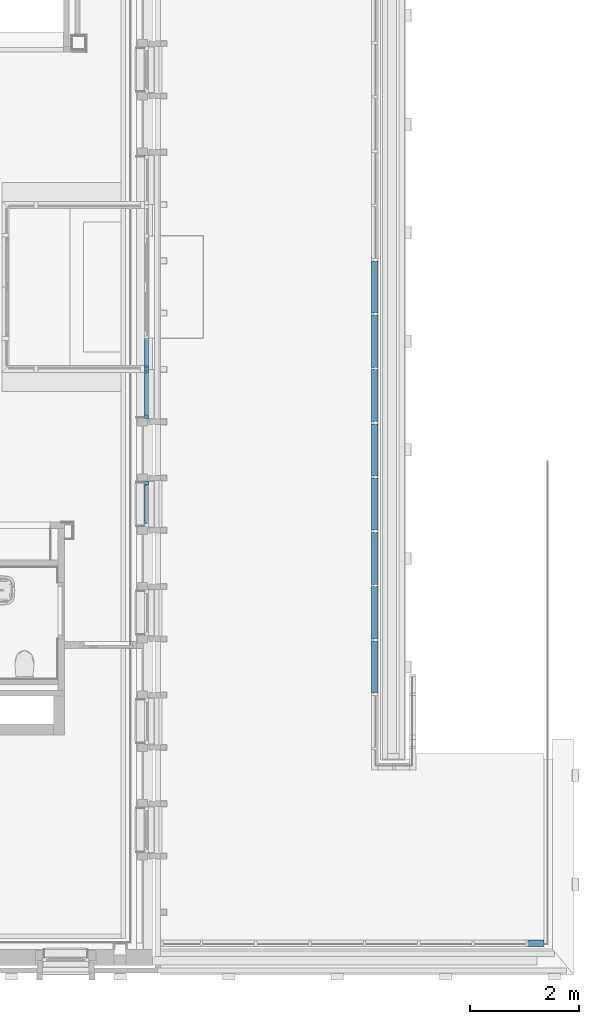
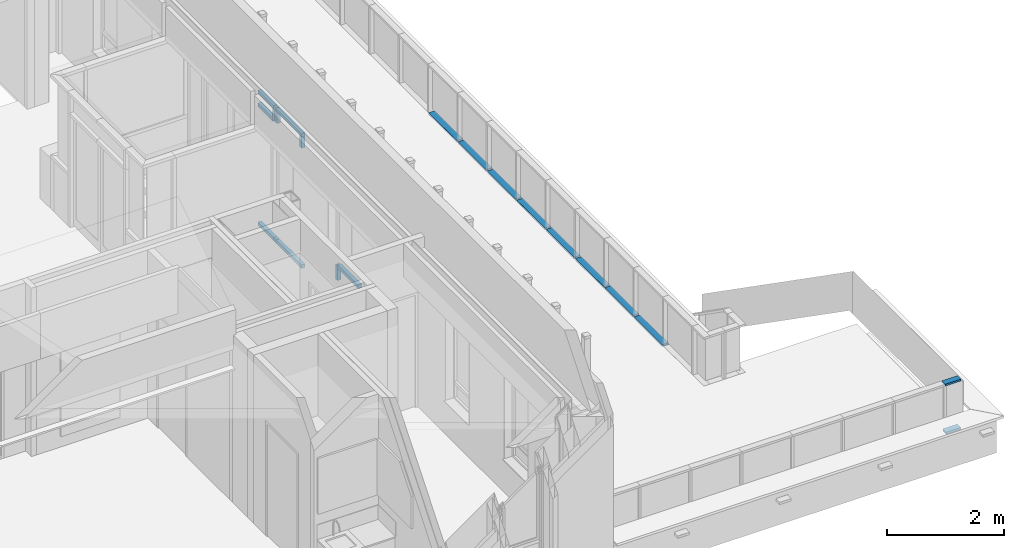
# One storey, part 12 of 118: 22 members, 4 elements without a shape of their own.
"""IFC2X3 building model written with IfcOpenShell, lengths in millimetres."""

from ifc_helpers import new_model, entity, si_unit, converted_unit, derived_unit, direction, frame, origin, origin_2d_with_axis, place, context, subcontext, project, spatial, rectangle, extrude, source, transform, mapped, material, material_list, type_object, type_shapes, element, aggregate, save


model = new_model("IFC2X3")

# Units and contexts
model_context = context("Model", 3, precision=0.01, world=origin(), true_north=direction((6.123031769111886e-17, 1.0)))
plan_context = context("Plan", 3, precision=0.01, world=origin(), true_north=direction((6.123031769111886e-17, 1.0)))
body_context = subcontext(model_context, "Body", "Model", "MODEL_VIEW")
ifc_project = project(units=[si_unit("LENGTHUNIT", "METRE", prefix="MILLI"), si_unit("AREAUNIT", "SQUARE_METRE"), si_unit("VOLUMEUNIT", "CUBIC_METRE"), converted_unit("PLANEANGLEUNIT", "DEGREE", entity("IfcRatioMeasure", 0.017453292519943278), si_unit("PLANEANGLEUNIT", "RADIAN"), dimensions=[0, 0, 0, 0, 0, 0, 0]), si_unit("MASSUNIT", "GRAM", prefix="KILO"), derived_unit("MASSDENSITYUNIT", [(si_unit("MASSUNIT", "GRAM", prefix="KILO"), 1), (si_unit("LENGTHUNIT", "METRE"), -3)]), derived_unit("IONCONCENTRATIONUNIT", [(si_unit("MASSUNIT", "GRAM", prefix="KILO"), 1), (si_unit("LENGTHUNIT", "METRE"), -3)]), derived_unit("MOMENTOFINERTIAUNIT", [(si_unit("LENGTHUNIT", "METRE"), 4)]), si_unit("TIMEUNIT", "SECOND"), si_unit("FREQUENCYUNIT", "HERTZ"), si_unit("THERMODYNAMICTEMPERATUREUNIT", "DEGREE_CELSIUS"), derived_unit("THERMALTRANSMITTANCEUNIT", [(si_unit("MASSUNIT", "GRAM", prefix="KILO"), 1), (si_unit("THERMODYNAMICTEMPERATUREUNIT", "KELVIN"), -1), (si_unit("TIMEUNIT", "SECOND"), -3)]), derived_unit("THERMALCONDUCTANCEUNIT", [(si_unit("MASSUNIT", "GRAM", prefix="KILO"), 1), (si_unit("THERMODYNAMICTEMPERATUREUNIT", "KELVIN"), -1), (si_unit("TIMEUNIT", "SECOND"), -3), (si_unit("LENGTHUNIT", "METRE"), 1)]), derived_unit("VOLUMETRICFLOWRATEUNIT", [(si_unit("LENGTHUNIT", "METRE"), 3), (si_unit("TIMEUNIT", "SECOND"), -1)]), derived_unit("MASSFLOWRATEUNIT", [(si_unit("MASSUNIT", "GRAM", prefix="KILO"), 1), (si_unit("TIMEUNIT", "SECOND"), -1)]), derived_unit("ROTATIONALFREQUENCYUNIT", [(si_unit("TIMEUNIT", "SECOND"), -1)]), si_unit("ELECTRICCURRENTUNIT", "AMPERE"), si_unit("ELECTRICVOLTAGEUNIT", "VOLT"), si_unit("POWERUNIT", "WATT"), si_unit("FORCEUNIT", "NEWTON", prefix="KILO"), si_unit("ILLUMINANCEUNIT", "LUX"), si_unit("LUMINOUSFLUXUNIT", "LUMEN"), si_unit("LUMINOUSINTENSITYUNIT", "CANDELA"), derived_unit("USERDEFINED", [(si_unit("MASSUNIT", "GRAM", prefix="KILO"), -1), (si_unit("LENGTHUNIT", "METRE"), -2), (si_unit("TIMEUNIT", "SECOND"), 3), (si_unit("LUMINOUSFLUXUNIT", "LUMEN"), 1)]), derived_unit("USERDEFINED", [(si_unit("MASSUNIT", "GRAM", prefix="KILO"), 1), (si_unit("TIMEUNIT", "SECOND"), -3), (si_unit("LENGTHUNIT", "METRE"), 3), (si_unit("ELECTRICCURRENTUNIT", "AMPERE"), -2)]), derived_unit("SOUNDPOWERUNIT", [(si_unit("MASSUNIT", "GRAM", prefix="KILO"), 1), (si_unit("TIMEUNIT", "SECOND"), -3), (si_unit("LENGTHUNIT", "METRE"), 2)]), derived_unit("SOUNDPRESSUREUNIT", [(si_unit("MASSUNIT", "GRAM", prefix="KILO"), 1), (si_unit("LENGTHUNIT", "METRE"), -1), (si_unit("TIMEUNIT", "SECOND"), -2)]), derived_unit("LINEARVELOCITYUNIT", [(si_unit("LENGTHUNIT", "METRE"), 1), (si_unit("TIMEUNIT", "SECOND"), -1)]), si_unit("PRESSUREUNIT", "PASCAL"), derived_unit("USERDEFINED", [(si_unit("MASSUNIT", "GRAM", prefix="KILO"), 1), (si_unit("LENGTHUNIT", "METRE"), -2), (si_unit("TIMEUNIT", "SECOND"), -2)]), derived_unit("LINEARFORCEUNIT", [(si_unit("MASSUNIT", "GRAM", prefix="KILO"), 1), (si_unit("TIMEUNIT", "SECOND"), -2)]), derived_unit("PLANARFORCEUNIT", [(si_unit("MASSUNIT", "GRAM", prefix="KILO"), 1), (si_unit("LENGTHUNIT", "METRE"), -1), (si_unit("TIMEUNIT", "SECOND"), -2)]), derived_unit("SPECIFICHEATCAPACITYUNIT", [(si_unit("THERMODYNAMICTEMPERATUREUNIT", "KELVIN"), -1), (si_unit("LENGTHUNIT", "METRE"), 2), (si_unit("TIMEUNIT", "SECOND"), -2)]), derived_unit("HEATINGVALUEUNIT", [(si_unit("LENGTHUNIT", "METRE"), 2), (si_unit("TIMEUNIT", "SECOND"), -2)]), derived_unit("VAPORPERMEABILITYUNIT", [(si_unit("LENGTHUNIT", "METRE"), -1), (si_unit("TIMEUNIT", "SECOND"), 1)]), derived_unit("DYNAMICVISCOSITYUNIT", [(si_unit("MASSUNIT", "GRAM", prefix="KILO"), 1), (si_unit("TIMEUNIT", "SECOND"), -1), (si_unit("LENGTHUNIT", "METRE"), -1)]), derived_unit("THERMALEXPANSIONCOEFFICIENTUNIT", [(si_unit("THERMODYNAMICTEMPERATUREUNIT", "KELVIN"), -1)]), derived_unit("MODULUSOFELASTICITYUNIT", [(si_unit("MASSUNIT", "GRAM", prefix="KILO"), 1), (si_unit("LENGTHUNIT", "METRE"), -1), (si_unit("TIMEUNIT", "SECOND"), -2)]), derived_unit("ISOTHERMALMOISTURECAPACITYUNIT", [(si_unit("LENGTHUNIT", "METRE"), 3), (si_unit("MASSUNIT", "GRAM", prefix="KILO"), -1)]), derived_unit("MOISTUREDIFFUSIVITYUNIT", [(si_unit("TIMEUNIT", "SECOND"), -1), (si_unit("LENGTHUNIT", "METRE"), 2)])], contexts=[model_context, plan_context])

# Site, building, storey
site_placement = place(None, origin())
site = spatial("IfcSite", under=ifc_project, at=site_placement, Name="Locatie", CompositionType="ELEMENT")
building_placement = place(site_placement, origin())
building = spatial("IfcBuilding", under=site, at=building_placement, Name="Bouwwerk", CompositionType="ELEMENT")
storey_placement = place(building_placement, frame((0.0, 0.0, 7800.0)))
storey = spatial("IfcBuildingStorey", under=building, at=storey_placement, Name="02 tweede verdieping", CompositionType="ELEMENT", Elevation=7800.000000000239)

# Curtain wall, members
curtain_wall_type_1 = type_object("IfcCurtainWallType", Name="Curtain Wall:NLRS_21_CW_Ontwerpkozijn_aluminium_RT72", PredefinedType="NOTDEFINED")
curtain_wall_1_placement = place(storey_placement, frame((0.0, 0.0, -7800.0)))
curtain_wall_1 = element("IfcCurtainWall", 1, at=curtain_wall_1_placement, inside=storey, type_object=curtain_wall_type_1, Name="Curtain Wall:NLRS_21_CW_Ontwerpkozijn_aluminium_RT72", ObjectType="Curtain Wall:NLRS_21_CW_Ontwerpkozijn_aluminium_RT72")
ifc_material_1 = material(Name="a_kozijn")
ifc_material_2 = material(Name="<Unnamed>")
ifc_material_list = material_list([ifc_material_2, ifc_material_1])
member_type_1 = type_object("IfcMemberType", Name="Rectangular Mullion:RT72_Hr_raam", PredefinedType="MULLION", material=ifc_material_list)
shared_shape_1 = source(origin(), body_context, "Body", "SweptSolid", [
    extrude(rectangle(XDim=71.99999999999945, YDim=68.00000000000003, at=origin_2d_with_axis()), frame((-34.0, -36.0, -301.0), z_axis=(0.0, 0.0, 1.0), x_axis=(0.0, -1.0, 0.0)), (0.0, 0.0, 1.0), 301.00000000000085),
])
type_shapes(member_type_1, [shared_shape_1])
member_1_placement = place(curtain_wall_1_placement, frame((34753.0, 18625.0, 8842.0), z_axis=(0.0, 0.0, 1.0), x_axis=(0.0, 1.0, 0.0)))
member_1 = element("IfcMember", 2, at=member_1_placement, type_object=member_type_1, material=ifc_material_1, Name="Rectangular Mullion:RT72_Hr_raam", ObjectType="Rectangular Mullion:RT72_Hr_raam", context=body_context, shape_type="MappedRepresentation", body=[
    mapped(shared_shape_1, transform((0.0, 0.0, 0.0), scale=1.0)),
])
member_type_2 = type_object("IfcMemberType", Name="Rectangular Mullion:RT72_Vb_raam", PredefinedType="MULLION", material=ifc_material_list)
shared_shape_2 = source(origin(), body_context, "Body", "SweptSolid", [
    extrude(rectangle(XDim=71.99999999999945, YDim=68.00000000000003, at=origin_2d_with_axis()), frame((0.0, -36.0, -714.0), z_axis=(0.0, 0.0, 1.0), x_axis=(0.0, -1.0, 0.0)), (0.0, 0.0, 1.0), 714.0000000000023),
])
type_shapes(member_type_2, [shared_shape_2])
member_2_placement = place(curtain_wall_1_placement, frame((34753.0, 17843.0, 8842.0), z_axis=(0.0, -1.0, 0.0), x_axis=(0.0, 0.0, 1.0)))
member_2 = element("IfcMember", 3, at=member_2_placement, type_object=member_type_2, material=ifc_material_1, Name="Rectangular Mullion:RT72_Vb_raam", ObjectType="Rectangular Mullion:RT72_Vb_raam", context=body_context, shape_type="MappedRepresentation", body=[
    mapped(shared_shape_2, transform((0.0, 0.0, 0.0), scale=1.0)),
])
aggregate(curtain_wall_1, [member_1, member_2])

curtain_wall_2_placement = place(storey_placement, frame((0.0, 0.0, -7800.0)))
curtain_wall_2 = element("IfcCurtainWall", 4, at=curtain_wall_2_placement, inside=storey, type_object=curtain_wall_type_1, Name="Curtain Wall:NLRS_21_CW_Ontwerpkozijn_aluminium_RT72", ObjectType="Curtain Wall:NLRS_21_CW_Ontwerpkozijn_aluminium_RT72")
member_type_3 = type_object("IfcMemberType", Name="Rectangular Mullion:RT72_Vb_raam", PredefinedType="MULLION", material=ifc_material_list)
shared_shape_3 = source(origin(), body_context, "Body", "SweptSolid", [
    extrude(rectangle(XDim=71.99999999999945, YDim=68.00000000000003, at=origin_2d_with_axis()), frame((-34.0, -36.0, -876.0), z_axis=(0.0, 0.0, 1.0), x_axis=(0.0, -1.0, 0.0)), (0.0, 0.0, 1.0), 876.0000000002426),
])
type_shapes(member_type_3, [shared_shape_3])
member_3_placement = place(curtain_wall_2_placement, frame((34753.0, 19775.0, 10863.0), z_axis=(0.0, -1.0, 0.0), x_axis=(0.0, 0.0, 1.0)))
member_3 = element("IfcMember", 5, at=member_3_placement, type_object=member_type_3, material=ifc_material_1, Name="Rectangular Mullion:RT72_Vb_raam", ObjectType="Rectangular Mullion:RT72_Vb_raam", context=body_context, shape_type="MappedRepresentation", body=[
    mapped(shared_shape_3, transform((0.0, 0.0, 0.0), scale=1.0)),
])
member_type_4 = type_object("IfcMemberType", Name="Rectangular Mullion:RT72_Hl_raam", PredefinedType="MULLION", material=ifc_material_list)
shared_shape_4 = source(origin(), body_context, "Body", "SweptSolid", [
    extrude(rectangle(XDim=71.99999999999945, YDim=68.00000000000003, at=origin_2d_with_axis()), frame((-34.0, -36.0, -239.0), z_axis=(0.0, 0.0, 1.0), x_axis=(0.0, -1.0, 0.0)), (0.0, 0.0, 1.0), 238.9999999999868),
])
type_shapes(member_type_4, [shared_shape_4])
member_4_placement = place(curtain_wall_2_placement, frame((34753.0, 19775.0, 10556.0), z_axis=(0.0, 0.0, -1.0), x_axis=(0.0, -1.0, 0.0)))
member_4 = element("IfcMember", 6, at=member_4_placement, type_object=member_type_4, material=ifc_material_1, Name="Rectangular Mullion:RT72_Hl_raam", ObjectType="Rectangular Mullion:RT72_Hl_raam", context=body_context, shape_type="MappedRepresentation", body=[
    mapped(shared_shape_4, transform((0.0, 0.0, 0.0), scale=1.0)),
])
member_type_5 = type_object("IfcMemberType", Name="Rectangular Mullion:RT72_Vo_raam", PredefinedType="MULLION", material=ifc_material_list)
shared_shape_5 = source(origin(), body_context, "Body", "SweptSolid", [
    extrude(rectangle(XDim=71.99999999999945, YDim=68.00000000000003, at=origin_2d_with_axis()), frame((-34.0, -36.0, -537.0), z_axis=(0.0, 0.0, 1.0), x_axis=(0.0, -1.0, 0.0)), (0.0, 0.0, 1.0), 537.0000000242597),
])
type_shapes(member_type_5, [shared_shape_5])
member_5_placement = place(curtain_wall_2_placement, frame((34753.0, 21261.0, 8056.0), z_axis=(0.0, 1.0, 0.0), x_axis=(0.0, 0.0, -1.0)))
member_5 = element("IfcMember", 7, at=member_5_placement, type_object=member_type_5, material=ifc_material_1, Name="Rectangular Mullion:RT72_Vo_raam", ObjectType="Rectangular Mullion:RT72_Vo_raam", context=body_context, shape_type="MappedRepresentation", body=[
    mapped(shared_shape_5, transform((0.0, 0.0, 0.0), scale=1.0)),
])
member_type_6 = type_object("IfcMemberType", Name="Rectangular Mullion:RT72_Vm_raam", PredefinedType="MULLION", material=ifc_material_list)
shared_shape_6 = source(origin(), body_context, "Body", "SweptSolid", [
    extrude(rectangle(XDim=71.99999999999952, YDim=77.99999999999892, at=origin_2d_with_axis()), frame((0.0, -36.0, -503.0), z_axis=(0.0, 0.0, 1.0), x_axis=(0.0, -1.0, 0.0)), (0.0, 0.0, 1.0), 503.00000002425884),
])
type_shapes(member_type_6, [shared_shape_6])
member_6_placement = place(curtain_wall_2_placement, frame((34753.0, 20758.0, 10556.0), z_axis=(0.0, -1.0, 0.0), x_axis=(0.0, 0.0, 1.0)))
member_6 = element("IfcMember", 8, at=member_6_placement, type_object=member_type_6, material=ifc_material_1, Name="Rectangular Mullion:RT72_Vm_raam", ObjectType="Rectangular Mullion:RT72_Vm_raam", context=body_context, shape_type="MappedRepresentation", body=[
    mapped(shared_shape_6, transform((0.0, 0.0, 0.0), scale=1.0)),
])
member_type_7 = type_object("IfcMemberType", Name="Rectangular Mullion:RT72_Vb_raam", PredefinedType="MULLION", material=ifc_material_list)
shared_shape_7 = source(origin(), body_context, "Body", "SweptSolid", [
    extrude(rectangle(XDim=71.99999999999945, YDim=68.00000000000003, at=origin_2d_with_axis()), frame((-34.0, -36.0, -73.0), z_axis=(0.0, 0.0, 1.0), x_axis=(0.0, -1.0, 0.0)), (0.0, 0.0, 1.0), 72.9999999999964),
])
type_shapes(member_type_7, [shared_shape_7])
member_7_placement = place(curtain_wall_2_placement, frame((34753.0, 20651.0, 10863.0), z_axis=(0.0, -1.0, 0.0), x_axis=(0.0, 0.0, 1.0)))
member_7 = element("IfcMember", 9, at=member_7_placement, type_object=member_type_7, material=ifc_material_1, Name="Rectangular Mullion:RT72_Vb_raam", ObjectType="Rectangular Mullion:RT72_Vb_raam", context=body_context, shape_type="MappedRepresentation", body=[
    mapped(shared_shape_7, transform((0.0, 0.0, 0.0), scale=1.0)),
])
member_type_8 = type_object("IfcMemberType", Name="Rectangular Mullion:RT72_Vo_raam", PredefinedType="MULLION", material=ifc_material_list)
shared_shape_8 = source(origin(), body_context, "Body", "SweptSolid", [
    extrude(rectangle(XDim=71.99999999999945, YDim=68.00000000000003, at=origin_2d_with_axis()), frame((-34.0, -36.0, -876.0), z_axis=(0.0, 0.0, 1.0), x_axis=(0.0, -1.0, 0.0)), (0.0, 0.0, 1.0), 876.0000000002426),
])
type_shapes(member_type_8, [shared_shape_8])
member_8_placement = place(curtain_wall_2_placement, frame((34753.0, 20651.0, 8056.0), z_axis=(0.0, 1.0, 0.0), x_axis=(0.0, 0.0, -1.0)))
member_8 = element("IfcMember", 10, at=member_8_placement, type_object=member_type_8, material=ifc_material_1, Name="Rectangular Mullion:RT72_Vo_raam", ObjectType="Rectangular Mullion:RT72_Vo_raam", context=body_context, shape_type="MappedRepresentation", body=[
    mapped(shared_shape_8, transform((0.0, 0.0, 0.0), scale=1.0)),
])
member_type_9 = type_object("IfcMemberType", Name="Rectangular Mullion:RT72_Hl_raam", PredefinedType="MULLION", material=ifc_material_list)
shared_shape_9 = source(origin(), body_context, "Body", "SweptSolid", [
    extrude(rectangle(XDim=71.99999999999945, YDim=68.00000000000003, at=origin_2d_with_axis()), frame((0.0, -36.0, -239.0), z_axis=(0.0, 0.0, 1.0), x_axis=(0.0, -1.0, 0.0)), (0.0, 0.0, 1.0), 238.9999999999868),
])
type_shapes(member_type_9, [shared_shape_9])
member_9_placement = place(curtain_wall_2_placement, frame((34753.0, 20651.0, 10556.0), z_axis=(0.0, 0.0, -1.0), x_axis=(0.0, -1.0, 0.0)))
member_9 = element("IfcMember", 11, at=member_9_placement, type_object=member_type_9, material=ifc_material_1, Name="Rectangular Mullion:RT72_Hl_raam", ObjectType="Rectangular Mullion:RT72_Hl_raam", context=body_context, shape_type="MappedRepresentation", body=[
    mapped(shared_shape_9, transform((0.0, 0.0, 0.0), scale=1.0)),
])
member_type_10 = type_object("IfcMemberType", Name="Rectangular Mullion:RT72_Vo_raam", PredefinedType="MULLION", material=ifc_material_list)
shared_shape_10 = source(origin(), body_context, "Body", "SweptSolid", [
    extrude(rectangle(XDim=71.99999999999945, YDim=68.00000000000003, at=origin_2d_with_axis()), frame((-34.0, -36.0, -73.0), z_axis=(0.0, 0.0, 1.0), x_axis=(0.0, -1.0, 0.0)), (0.0, 0.0, 1.0), 72.9999999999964),
])
type_shapes(member_type_10, [shared_shape_10])
member_10_placement = place(curtain_wall_2_placement, frame((34753.0, 20724.0, 8056.0), z_axis=(0.0, 1.0, 0.0), x_axis=(0.0, 0.0, -1.0)))
member_10 = element("IfcMember", 12, at=member_10_placement, type_object=member_type_10, material=ifc_material_1, Name="Rectangular Mullion:RT72_Vo_raam", ObjectType="Rectangular Mullion:RT72_Vo_raam", context=body_context, shape_type="MappedRepresentation", body=[
    mapped(shared_shape_10, transform((0.0, 0.0, 0.0), scale=1.0)),
])
member_type_11 = type_object("IfcMemberType", Name="Rectangular Mullion:RT72_Vb_raam", PredefinedType="MULLION", material=ifc_material_list)
shared_shape_11 = source(origin(), body_context, "Body", "SweptSolid", [
    extrude(rectangle(XDim=71.99999999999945, YDim=68.00000000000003, at=origin_2d_with_axis()), frame((-34.0, -36.0, -537.0), z_axis=(0.0, 0.0, 1.0), x_axis=(0.0, -1.0, 0.0)), (0.0, 0.0, 1.0), 537.0000000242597),
])
type_shapes(member_type_11, [shared_shape_11])
member_11_placement = place(curtain_wall_2_placement, frame((34753.0, 20724.0, 10863.0), z_axis=(0.0, -1.0, 0.0), x_axis=(0.0, 0.0, 1.0)))
member_11 = element("IfcMember", 13, at=member_11_placement, type_object=member_type_11, material=ifc_material_1, Name="Rectangular Mullion:RT72_Vb_raam", ObjectType="Rectangular Mullion:RT72_Vb_raam", context=body_context, shape_type="MappedRepresentation", body=[
    mapped(shared_shape_11, transform((0.0, 0.0, 0.0), scale=1.0)),
])
member_type_12 = type_object("IfcMemberType", Name="Rectangular Mullion:RT72_Hl_raam", PredefinedType="MULLION", material=ifc_material_list)
shared_shape_12 = source(origin(), body_context, "Body", "SweptSolid", [
    extrude(rectangle(XDim=71.99999999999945, YDim=68.00000000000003, at=origin_2d_with_axis()), frame((0.0, -36.0, -239.0), z_axis=(0.0, 0.0, 1.0), x_axis=(0.0, -1.0, 0.0)), (0.0, 0.0, 1.0), 238.9999999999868),
])
type_shapes(member_type_12, [shared_shape_12])
member_12_placement = place(curtain_wall_2_placement, frame((34753.0, 20724.0, 10556.0), z_axis=(0.0, 0.0, -1.0), x_axis=(0.0, -1.0, 0.0)))
member_12 = element("IfcMember", 14, at=member_12_placement, type_object=member_type_12, material=ifc_material_1, Name="Rectangular Mullion:RT72_Hl_raam", ObjectType="Rectangular Mullion:RT72_Hl_raam", context=body_context, shape_type="MappedRepresentation", body=[
    mapped(shared_shape_12, transform((0.0, 0.0, 0.0), scale=1.0)),
])
aggregate(curtain_wall_2, [member_3, member_4, member_5, member_6, member_7, member_8, member_9, member_11, member_10, member_12])

curtain_wall_type_2 = type_object("IfcCurtainWallType", Name="Curtain Wall:railing 120x40", PredefinedType="NOTDEFINED")
curtain_wall_3_placement = place(storey_placement, frame((0.0, 0.0, -7800.0)))
curtain_wall_3 = element("IfcCurtainWall", 15, at=curtain_wall_3_placement, inside=storey, type_object=curtain_wall_type_2, Name="Curtain Wall:railing 120x40", ObjectType="Curtain Wall:railing 120x40")
ifc_material_3 = material(Name="staal")
member_type_13 = type_object("IfcMemberType", Name="Rectangular Mullion:40x120 railing", PredefinedType="MULLION", material=ifc_material_3)
shared_shape_13 = source(origin(), body_context, "Body", "SweptSolid", [
    extrude(rectangle(XDim=120.0, YDim=40.0, at=origin_2d_with_axis()), frame((-20.0, 0.0, -960.0), z_axis=(0.0, 0.0, 1.0), x_axis=(0.0, -1.0, 0.0)), (0.0, 0.0, 1.0), 959.9999999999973),
])
type_shapes(member_type_13, [shared_shape_13])
member_13_placement = place(curtain_wall_3_placement, frame((38990.0, 15720.0, 8033.0), z_axis=(0.0, -1.0, 0.0), x_axis=(0.0, 0.0, -1.0)))
member_13 = element("IfcMember", 16, at=member_13_placement, type_object=member_type_13, material=ifc_material_3, Name="Rectangular Mullion:40x120 railing", ObjectType="Rectangular Mullion:40x120 railing", context=body_context, shape_type="MappedRepresentation", body=[
    mapped(shared_shape_13, transform((0.0, 0.0, 0.0), scale=1.0)),
])
member_14_placement = place(curtain_wall_3_placement, frame((38990.0, 17720.0, 8033.0), z_axis=(0.0, -1.0, 0.0), x_axis=(0.0, 0.0, -1.0)))
member_14 = element("IfcMember", 17, at=member_14_placement, type_object=member_type_13, material=ifc_material_3, Name="Rectangular Mullion:40x120 railing", ObjectType="Rectangular Mullion:40x120 railing", context=body_context, shape_type="MappedRepresentation", body=[
    mapped(shared_shape_13, transform((0.0, 0.0, 0.0), scale=1.0)),
])
member_15_placement = place(curtain_wall_3_placement, frame((38990.0, 19720.0, 8033.0), z_axis=(0.0, -1.0, 0.0), x_axis=(0.0, 0.0, -1.0)))
member_15 = element("IfcMember", 18, at=member_15_placement, type_object=member_type_13, material=ifc_material_3, Name="Rectangular Mullion:40x120 railing", ObjectType="Rectangular Mullion:40x120 railing", context=body_context, shape_type="MappedRepresentation", body=[
    mapped(shared_shape_13, transform((0.0, 0.0, 0.0), scale=1.0)),
])
member_16_placement = place(curtain_wall_3_placement, frame((38990.0, 21720.0, 8033.0), z_axis=(0.0, -1.0, 0.0), x_axis=(0.0, 0.0, -1.0)))
member_16 = element("IfcMember", 19, at=member_16_placement, type_object=member_type_13, material=ifc_material_3, Name="Rectangular Mullion:40x120 railing", ObjectType="Rectangular Mullion:40x120 railing", context=body_context, shape_type="MappedRepresentation", body=[
    mapped(shared_shape_13, transform((0.0, 0.0, 0.0), scale=1.0)),
])
member_17_placement = place(curtain_wall_3_placement, frame((38990.0, 16720.0, 8033.0), z_axis=(0.0, -1.0, 0.0), x_axis=(0.0, 0.0, -1.0)))
member_17 = element("IfcMember", 20, at=member_17_placement, type_object=member_type_13, material=ifc_material_3, Name="Rectangular Mullion:40x120 railing", ObjectType="Rectangular Mullion:40x120 railing", context=body_context, shape_type="MappedRepresentation", body=[
    mapped(shared_shape_13, transform((0.0, 0.0, 0.0), scale=1.0)),
])
member_18_placement = place(curtain_wall_3_placement, frame((38990.0, 18720.0, 8033.0), z_axis=(0.0, -1.0, 0.0), x_axis=(0.0, 0.0, -1.0)))
member_18 = element("IfcMember", 21, at=member_18_placement, type_object=member_type_13, material=ifc_material_3, Name="Rectangular Mullion:40x120 railing", ObjectType="Rectangular Mullion:40x120 railing", context=body_context, shape_type="MappedRepresentation", body=[
    mapped(shared_shape_13, transform((0.0, 0.0, 0.0), scale=1.0)),
])
member_19_placement = place(curtain_wall_3_placement, frame((38990.0, 20720.0, 8033.0), z_axis=(0.0, -1.0, 0.0), x_axis=(0.0, 0.0, -1.0)))
member_19 = element("IfcMember", 22, at=member_19_placement, type_object=member_type_13, material=ifc_material_3, Name="Rectangular Mullion:40x120 railing", ObjectType="Rectangular Mullion:40x120 railing", context=body_context, shape_type="MappedRepresentation", body=[
    mapped(shared_shape_13, transform((0.0, 0.0, 0.0), scale=1.0)),
])
member_20_placement = place(curtain_wall_3_placement, frame((38990.0, 14720.0, 8033.0), z_axis=(0.0, -1.0, 0.0), x_axis=(0.0, 0.0, -1.0)))
member_20 = element("IfcMember", 23, at=member_20_placement, type_object=member_type_13, material=ifc_material_3, Name="Rectangular Mullion:40x120 railing", ObjectType="Rectangular Mullion:40x120 railing", context=body_context, shape_type="MappedRepresentation", body=[
    mapped(shared_shape_13, transform((0.0, 0.0, 0.0), scale=1.0)),
])
aggregate(curtain_wall_3, [member_13, member_14, member_15, member_16, member_17, member_18, member_19, member_20])

curtain_wall_4_placement = place(storey_placement, frame((0.0, 0.0, -7800.0)))
curtain_wall_4 = element("IfcCurtainWall", 24, at=curtain_wall_4_placement, inside=storey, type_object=curtain_wall_type_2, Name="Curtain Wall:railing 120x40", ObjectType="Curtain Wall:railing 120x40")
member_type_14 = type_object("IfcMemberType", Name="Rectangular Mullion:40x120 railing", PredefinedType="MULLION", material=ifc_material_3)
shared_shape_14 = source(origin(), body_context, "Body", "SweptSolid", [
    extrude(rectangle(XDim=120.0, YDim=40.0, at=origin_2d_with_axis()), frame((-20.0, 0.0, -305.0), z_axis=(0.0, 0.0, 1.0), x_axis=(0.0, -1.0, 0.0)), (0.0, 0.0, 1.0), 305.00000000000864),
])
type_shapes(member_type_14, [shared_shape_14])
member_21_placement = place(curtain_wall_4_placement, frame((42105.0, 10110.0, 9080.0), z_axis=(1.0, 0.0, 0.0), x_axis=(0.0, 0.0, 1.0)))
member_21 = element("IfcMember", 25, at=member_21_placement, type_object=member_type_14, material=ifc_material_3, Name="Rectangular Mullion:40x120 railing", ObjectType="Rectangular Mullion:40x120 railing", context=body_context, shape_type="MappedRepresentation", body=[
    mapped(shared_shape_14, transform((0.0, 0.0, 0.0), scale=1.0)),
])
member_type_15 = type_object("IfcMemberType", Name="Rectangular Mullion:40x120 railing", PredefinedType="MULLION", material=ifc_material_3)
shared_shape_15 = source(origin(), body_context, "Body", "SweptSolid", [
    extrude(rectangle(XDim=120.0, YDim=40.0, at=origin_2d_with_axis()), frame((-20.0, 0.0, -285.0), z_axis=(0.0, 0.0, 1.0), x_axis=(0.0, -1.0, 0.0)), (0.0, 0.0, 1.0), 285.00000000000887),
])
type_shapes(member_type_15, [shared_shape_15])
member_22_placement = place(curtain_wall_4_placement, frame((41820.0, 10110.0, 8033.0), z_axis=(-1.0, 0.0, 0.0), x_axis=(0.0, 0.0, -1.0)))
member_22 = element("IfcMember", 26, at=member_22_placement, type_object=member_type_15, material=ifc_material_3, Name="Rectangular Mullion:40x120 railing", ObjectType="Rectangular Mullion:40x120 railing", context=body_context, shape_type="MappedRepresentation", body=[
    mapped(shared_shape_15, transform((0.0, 0.0, 0.0), scale=1.0)),
])
aggregate(curtain_wall_4, [member_21, member_22])

save(model, "model.ifc")
